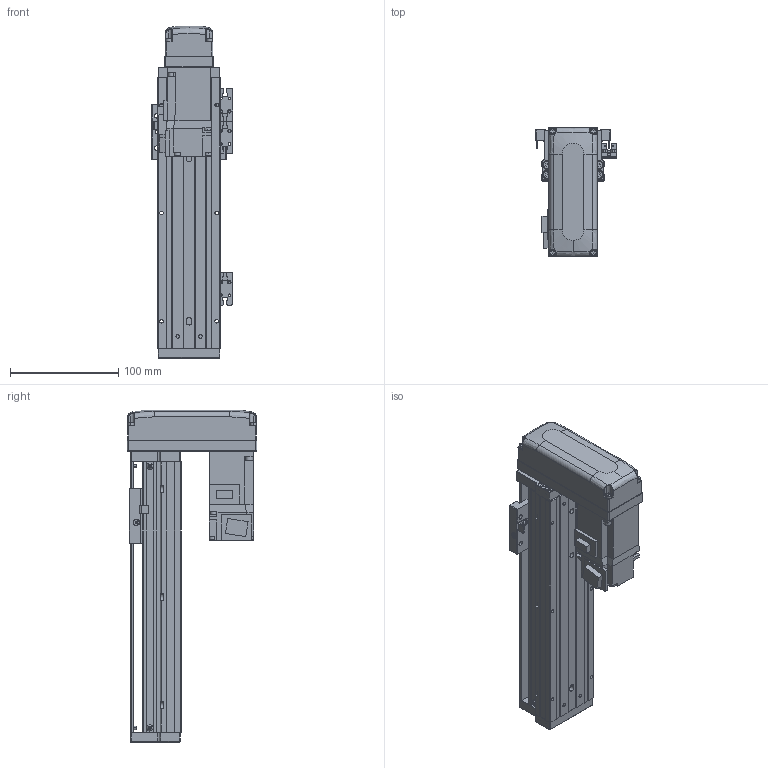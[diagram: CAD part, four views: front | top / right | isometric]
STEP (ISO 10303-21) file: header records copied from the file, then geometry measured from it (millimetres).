
FILE_DESCRIPTION (( 'STEP AP203' ), '1' );
FILE_NAME ('KTHA50-150-BM-M10-C4L.step', '2022-03-19T07:10:37', ( '微软用户' ), ( '微软中国' ), 'SwSTEP 2.0', 'SolidWorks 2020', '' );
FILE_SCHEMA (( 'CONFIG_CONTROL_DESIGN' ));
Length unit declared in the file: millimetre
Products named in the file (18): GBT77-2000 M3×3; HG-KR13（三菱）; KTHA50-001_250; GBT 70.1-M3℅6; CTHA50-015-2_CTHA60-015-2; KTHA50-002; CTHA60-017; CTHA60-033; KTHA50-004; GBT 70.1-M4×12; GBT 70.1-M3×15; KTHA50-005; CTHA60-016; KTHA50-150-BM-M10-C4L; GB¨uT 70.2-M3¡Á6_M3¡Á6; CTHA60-021; EE_SX911P_R; GBT 70.3-M3℅6
Assembly tree (53 placements, depth 2):
  KTHA50-150-BM-M10-C4L
    KTHA50-001_250
    KTHA50-002
    KTHA50-004
    KTHA50-005
    GB¨uT 70.2-M3¡Á6_M3¡Á6  x6
    EE_SX911P_R  x3
    GBT77-2000 M3×3  x6
    GBT 70.1-M3℅6  x6
    CTHA60-017  x3
    GBT 70.1-M4×12  x10
    CTHA60-016  x2
    CTHA60-021  x2
    GBT 70.3-M3℅6  x4
    HG-KR13（三菱）
    CTHA50-015-2_CTHA60-015-2
    CTHA60-033
    GBT 70.1-M3×15  x4
Bounding box: 75.22 x 120 x 307 mm (x, y, z)
Volume: 791613.1 mm3; surface area: 195622 mm2
Topology: 56 solids, 56 shells, 2203 faces, 5183 edges, 3172 vertices
Faces by surface type: plane 1228, cylinder 532, cone 301, torus 100, bspline 26, sphere 16
Entity records: 36297 total; most frequent: CARTESIAN_POINT 6898, DIRECTION 5635, ORIENTED_EDGE 5378, EDGE_CURVE 2689, AXIS2_PLACEMENT_3D 1925, VECTOR 1785, LINE 1785, VERTEX_POINT 1686
